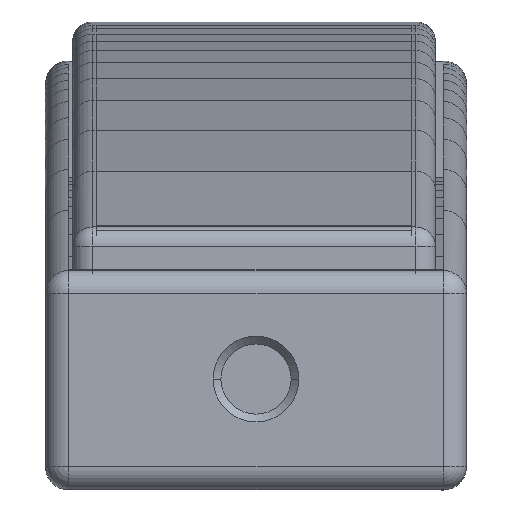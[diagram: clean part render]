
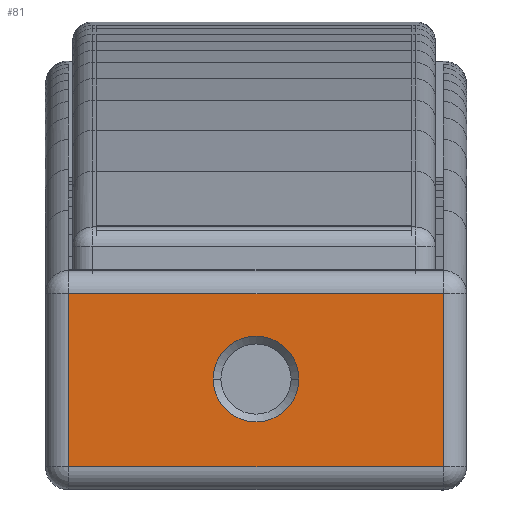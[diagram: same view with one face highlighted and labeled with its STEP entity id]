
A CAD part, front view. The second image highlights one B-rep face of the part: STEP entity #81.
In plain terms, the highlighted planar face has unit normal (0, -1, 0).
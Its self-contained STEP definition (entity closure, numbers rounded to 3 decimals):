
#14 = ORIENTED_EDGE ( 'NONE', *, *, #71, .T. ) ;
#20 = ORIENTED_EDGE ( 'NONE', *, *, #37, .T. ) ;
#37 = EDGE_CURVE ( 'NONE', #7610, #53, #1637, .T. ) ;
#39 = ORIENTED_EDGE ( 'NONE', *, *, #57, .T. ) ;
#45 = EDGE_LOOP ( 'NONE', ( #7609, #39 ) ) ;
#47 = EDGE_CURVE ( 'NONE', #67, #7610, #1623, .T. ) ;
#52 = VERTEX_POINT ( 'NONE', #1616 ) ;
#53 = VERTEX_POINT ( 'NONE', #1665 ) ;
#57 = EDGE_CURVE ( 'NONE', #1283, #1343, #1657, .T. ) ;
#61 = ORIENTED_EDGE ( 'NONE', *, *, #47, .T. ) ;
#67 = VERTEX_POINT ( 'NONE', #1650 ) ;
#71 = EDGE_CURVE ( 'NONE', #53, #52, #1646, .T. ) ;
#76 = ORIENTED_EDGE ( 'NONE', *, *, #77, .T. ) ;
#77 = EDGE_CURVE ( 'NONE', #52, #67, #1687, .T. ) ;
#81 = ADVANCED_FACE ( 'NONE', ( #1683, #1682 ), #1681, .T. ) ;
#82 = EDGE_LOOP ( 'NONE', ( #14, #76, #61, #20 ) ) ;
#1282 = EDGE_CURVE ( 'NONE', #1343, #1283, #3581, .T. ) ;
#1283 = VERTEX_POINT ( 'NONE', #3642 ) ;
#1343 = VERTEX_POINT ( 'NONE', #3711 ) ;
#1616 = CARTESIAN_POINT ( 'NONE',  ( 35.495, -631.543, 102. ) ) ;
#1617 = DIRECTION ( 'NONE',  ( 1., 0., 0. ) ) ;
#1618 = VECTOR ( 'NONE', #1617, 1000. ) ;
#1619 = CARTESIAN_POINT ( 'NONE',  ( 29.495, -631.543, 6. ) ) ;
#1623 = LINE ( 'NONE', #1619, #1618 ) ;
#1634 = DIRECTION ( 'NONE',  ( 0., 0., 1. ) ) ;
#1635 = VECTOR ( 'NONE', #1634, 1000. ) ;
#1636 = CARTESIAN_POINT ( 'NONE',  ( 79.872, -631.543, 108. ) ) ;
#1637 = LINE ( 'NONE', #1636, #1635 ) ;
#1639 = CARTESIAN_POINT ( 'NONE',  ( 29.495, -631.543, 102. ) ) ;
#1646 = LINE ( 'NONE', #1639, #1694 ) ;
#1650 = CARTESIAN_POINT ( 'NONE',  ( 35.495, -631.543, 6. ) ) ;
#1654 = DIRECTION ( 'NONE',  ( 0., 0., -1. ) ) ;
#1655 = DIRECTION ( 'NONE',  ( 0., 1., 0. ) ) ;
#1656 = AXIS2_PLACEMENT_3D ( 'NONE', #1663, #1655, #1654 ) ;
#1657 = CIRCLE ( 'NONE', #1656, 11. ) ;
#1663 = CARTESIAN_POINT ( 'NONE',  ( 57.946, -631.543, 54. ) ) ;
#1665 = CARTESIAN_POINT ( 'NONE',  ( 79.872, -631.543, 102. ) ) ;
#1676 = DIRECTION ( 'NONE',  ( 0., 0., -1. ) ) ;
#1677 = DIRECTION ( 'NONE',  ( 0., -1., 0. ) ) ;
#1678 = CARTESIAN_POINT ( 'NONE',  ( 29.495, -631.543, 0. ) ) ;
#1680 = AXIS2_PLACEMENT_3D ( 'NONE', #1678, #1677, #1676 ) ;
#1681 = PLANE ( 'NONE',  #1680 ) ;
#1682 = FACE_BOUND ( 'NONE', #45, .T. ) ;
#1683 = FACE_OUTER_BOUND ( 'NONE', #82, .T. ) ;
#1684 = DIRECTION ( 'NONE',  ( 0., 0., -1. ) ) ;
#1685 = VECTOR ( 'NONE', #1684, 1000. ) ;
#1686 = CARTESIAN_POINT ( 'NONE',  ( 35.495, -631.543, 0. ) ) ;
#1687 = LINE ( 'NONE', #1686, #1685 ) ;
#1693 = DIRECTION ( 'NONE',  ( -1., 0., 0. ) ) ;
#1694 = VECTOR ( 'NONE', #1693, 1000. ) ;
#3577 = DIRECTION ( 'NONE',  ( 0., 0., -1. ) ) ;
#3578 = DIRECTION ( 'NONE',  ( 0., 1., 0. ) ) ;
#3579 = CARTESIAN_POINT ( 'NONE',  ( 57.946, -631.543, 54. ) ) ;
#3580 = AXIS2_PLACEMENT_3D ( 'NONE', #3579, #3578, #3577 ) ;
#3581 = CIRCLE ( 'NONE', #3580, 11. ) ;
#3642 = CARTESIAN_POINT ( 'NONE',  ( 57.946, -631.543, 65. ) ) ;
#3711 = CARTESIAN_POINT ( 'NONE',  ( 57.946, -631.543, 43. ) ) ;
#6102 = CARTESIAN_POINT ( 'NONE',  ( 79.872, -631.543, 6. ) ) ;
#7609 = ORIENTED_EDGE ( 'NONE', *, *, #1282, .T. ) ;
#7610 = VERTEX_POINT ( 'NONE', #6102 ) ;
